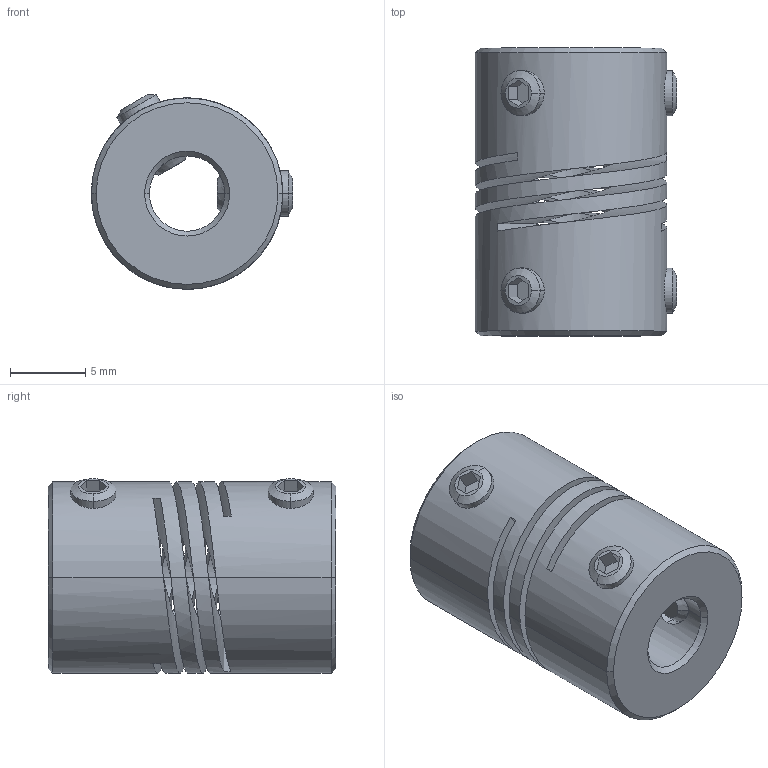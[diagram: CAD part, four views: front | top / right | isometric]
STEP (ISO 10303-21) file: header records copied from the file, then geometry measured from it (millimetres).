
FILE_DESCRIPTION((''),'2;1');
FILE_NAME('724_13_ASM','2006-12-05T',('Gary Melling'),(''),'PRO/ENGINEER BY PARAMETRIC TECHNOLOGY CORPORATION, 2006240','PRO/ENGINEER BY PARAMETRIC TECHNOLOGY CORPORATION, 2006240','');
FILE_SCHEMA(('CONFIG_CONTROL_DESIGN'));
Length unit declared in the file: millimetre
Products named in the file (3): 724_13; GS_3; 724_13_ASM
Assembly tree (5 placements, depth 2):
  724_13_ASM
    724_13
    GS_3  x4
Bounding box: 13.35 x 19.1 x 12.91 mm (x, y, z)
Volume: 1837.8 mm3; surface area: 2179 mm2
Topology: 5 solids, 5 shells, 106 faces, 276 edges, 176 vertices
Faces by surface type: plane 46, cylinder 30, cone 24, bspline 6
Entity records: 3313 total; most frequent: CARTESIAN_POINT 1662, ORIENTED_EDGE 360, DIRECTION 278, EDGE_CURVE 180, VERTEX_POINT 116, AXIS2_PLACEMENT_3D 95, VECTOR 88, LINE 88
